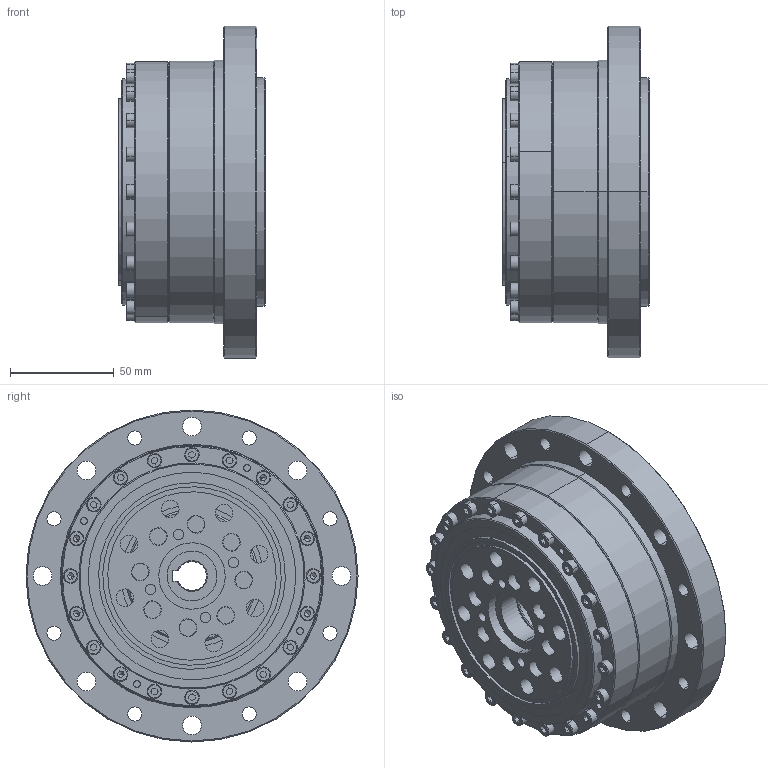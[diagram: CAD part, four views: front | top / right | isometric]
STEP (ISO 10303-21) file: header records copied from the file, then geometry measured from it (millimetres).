
FILE_DESCRIPTION (( 'STEP AP203' ), '1' );
FILE_NAME ('BCS-40-XXX-U-¢ñ.STEP', '2019-01-15T03:23:59', ( 'User' ), ( 'China' ), 'SwSTEP 2.0', 'SolidWorks 2015', '' );
FILE_SCHEMA (( 'CONFIG_CONTROL_DESIGN' ));
Length unit declared in the file: millimetre
Products named in the file (1): BCS-40-XXX-U-ｉ
Bounding box: 70.6 x 160 x 160 mm (x, y, z)
Surface area: 128088.6 mm2 (no closed solid volume)
Topology: 0 solids, 40 shells, 494 faces, 1520 edges, 1023 vertices
Faces by surface type: plane 182, cylinder 173, cone 87, sphere 46, bspline 4, torus 2
Entity records: 19604 total; most frequent: CARTESIAN_POINT 6269, DIRECTION 2973, ORIENTED_EDGE 2336, EDGE_CURVE 1389, AXIS2_PLACEMENT_3D 1154, VERTEX_POINT 954, EDGE_LOOP 687, VECTOR 665
